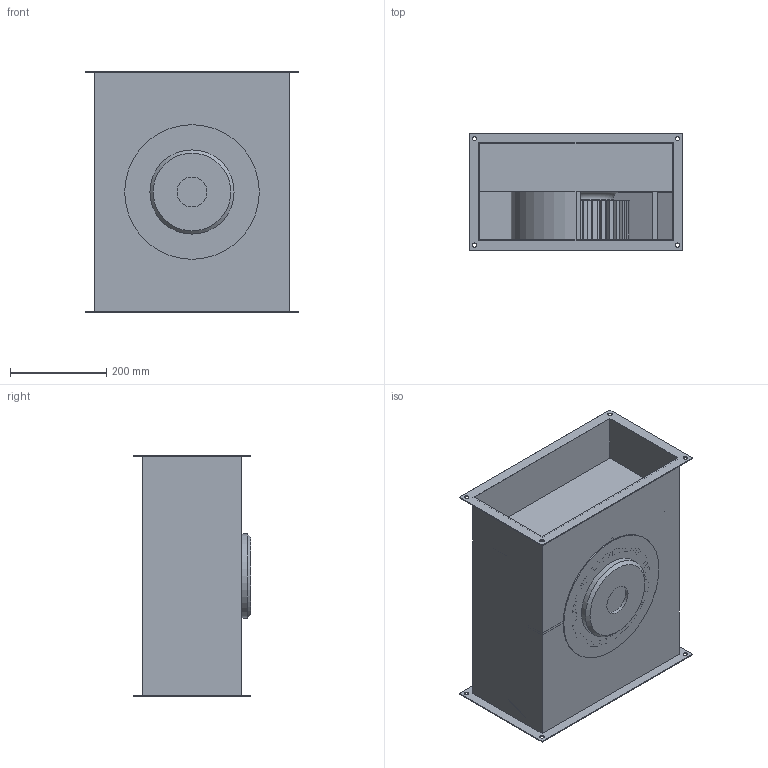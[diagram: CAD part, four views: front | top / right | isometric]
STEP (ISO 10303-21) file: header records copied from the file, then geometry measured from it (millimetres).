
FILE_DESCRIPTION(/* description */ (''),/* implementation_level */ '2;1');
FILE_NAME(/* name */ 'Z:\Output\KVD_200-4-40-20-05676-012.stp',/* time_stamp */ '2020-05-12T13:56:34+02:00',/* author */ ('Engineering1'),/* organization */ (''),/* preprocessor_version */ 'ST-DEVELOPER v17.2',/* originating_system */ 'Autodesk Inventor 2019',/* authorisation */ '');
FILE_SCHEMA (('AUTOMOTIVE_DESIGN { 1 0 10303 214 3 1 1 }'));
Length unit declared in the file: millimetre
Products named in the file (1): KV-1
Bounding box: 444 x 244 x 502 mm (x, y, z)
Volume: 5910901 mm3; surface area: 1987438.1 mm2
Topology: 2 solids, 2 shells, 218 faces, 622 edges, 411 vertices
Faces by surface type: plane 130, cylinder 85, torus 2, cone 1
Full cylindrical faces by diameter (mm): 9 x8, 62.139 x1, 115 x1, 155 x1, 175 x1, 230 x1, 280 x1
Entity records: 7424 total; most frequent: CARTESIAN_POINT 1252, ORIENTED_EDGE 1244, DIRECTION 1241, EDGE_CURVE 622, LINE 441, VECTOR 441, VERTEX_POINT 411, AXIS2_PLACEMENT_3D 400
